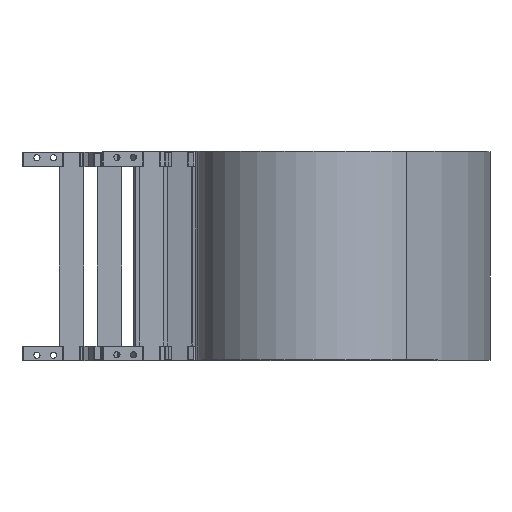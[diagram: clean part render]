
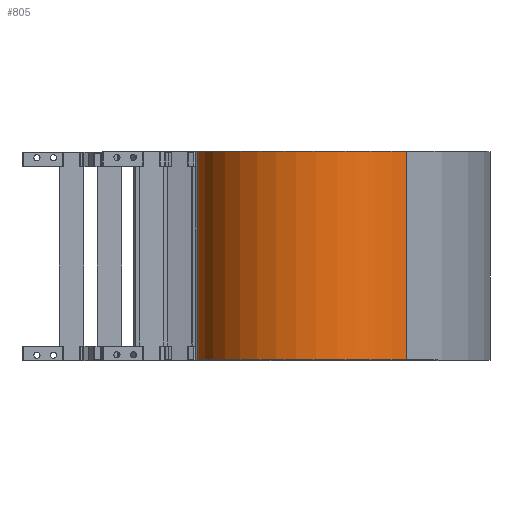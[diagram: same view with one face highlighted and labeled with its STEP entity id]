
A CAD part, top view. The second image highlights one B-rep face of the part: STEP entity #805.
In plain terms, the highlighted cylindrical face has radius 115 mm (diameter 230 mm), a partial arc.
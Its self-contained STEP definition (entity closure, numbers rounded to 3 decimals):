
#805 = ADVANCED_FACE( '', ( #1752 ), #1753, .T. );
#1752 = FACE_OUTER_BOUND( '', #2880, .T. );
#1753 = CYLINDRICAL_SURFACE( '', #2881, 115. );
#2880 = EDGE_LOOP( '', ( #5033, #5034, #5035, #5036 ) );
#2881 = AXIS2_PLACEMENT_3D( '', #5037, #5038, #5039 );
#5033 = ORIENTED_EDGE( '', *, *, #7799, .T. );
#5034 = ORIENTED_EDGE( '', *, *, #7795, .F. );
#5035 = ORIENTED_EDGE( '', *, *, #7800, .F. );
#5036 = ORIENTED_EDGE( '', *, *, #7801, .T. );
#5037 = CARTESIAN_POINT( '', ( 180.522, 101.5, 150.456 ) );
#5038 = DIRECTION( '', ( 0., 1., 0. ) );
#5039 = DIRECTION( '', ( 0., 0., -1. ) );
#7795 = EDGE_CURVE( '', #9737, #9735, #9739, .T. );
#7799 = EDGE_CURVE( '', #9743, #9735, #9744, .T. );
#7800 = EDGE_CURVE( '', #9745, #9737, #9746, .T. );
#7801 = EDGE_CURVE( '', #9745, #9743, #9747, .T. );
#9735 = VERTEX_POINT( '', #12360 );
#9737 = VERTEX_POINT( '', #12362 );
#9739 = LINE( '', #12364, #12365 );
#9743 = VERTEX_POINT( '', #12369 );
#9744 = CIRCLE( '', #12370, 115. );
#9745 = VERTEX_POINT( '', #12371 );
#9746 = CIRCLE( '', #12372, 115. );
#9747 = LINE( '', #12373, #12374 );
#12360 = CARTESIAN_POINT( '', ( 268.862, -101.5, 224.083 ) );
#12362 = CARTESIAN_POINT( '', ( 268.862, 101.5, 224.083 ) );
#12364 = CARTESIAN_POINT( '', ( 268.862, 101.5, 224.083 ) );
#12365 = VECTOR( '', #14179, 1000. );
#12369 = CARTESIAN_POINT( '', ( 92.181, -101.5, 76.828 ) );
#12370 = AXIS2_PLACEMENT_3D( '', #14183, #14184, #14185 );
#12371 = CARTESIAN_POINT( '', ( 92.181, 101.5, 76.828 ) );
#12372 = AXIS2_PLACEMENT_3D( '', #14186, #14187, #14188 );
#12373 = CARTESIAN_POINT( '', ( 92.181, 101.5, 76.828 ) );
#12374 = VECTOR( '', #14189, 1000. );
#14179 = DIRECTION( '', ( 0., -1., 0. ) );
#14183 = CARTESIAN_POINT( '', ( 180.522, -101.5, 150.456 ) );
#14184 = DIRECTION( '', ( 0., 1., 0. ) );
#14185 = DIRECTION( '', ( 1., 0., 0. ) );
#14186 = CARTESIAN_POINT( '', ( 180.522, 101.5, 150.456 ) );
#14187 = DIRECTION( '', ( 0., 1., 0. ) );
#14188 = DIRECTION( '', ( 1., 0., 0. ) );
#14189 = DIRECTION( '', ( 0., -1., 0. ) );
